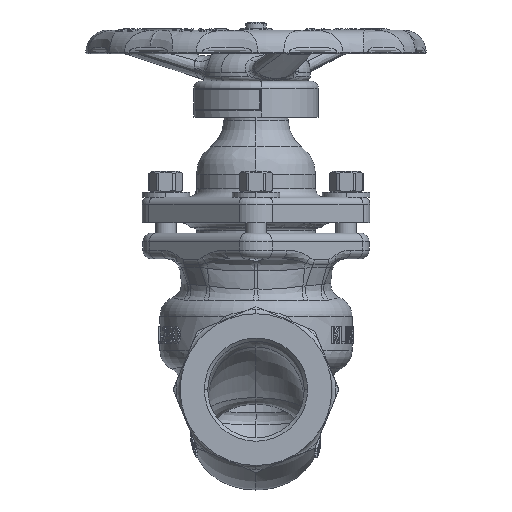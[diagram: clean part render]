
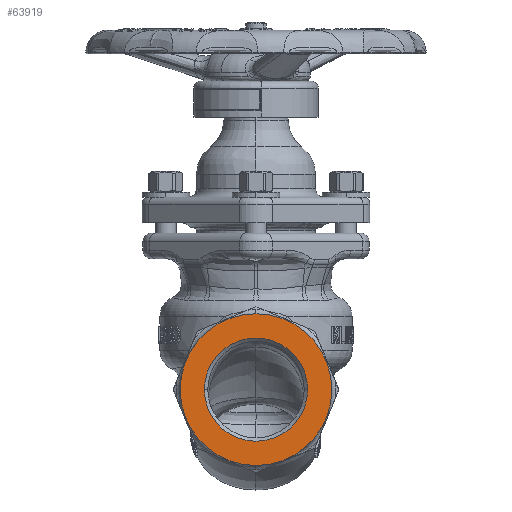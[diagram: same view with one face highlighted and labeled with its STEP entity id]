
A CAD part, left-side view. The second image highlights one B-rep face of the part: STEP entity #63919.
In plain terms, the highlighted planar face has unit normal (-1, 0, 0).
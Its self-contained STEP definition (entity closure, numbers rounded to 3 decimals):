
#13453=CARTESIAN_POINT('',(-110.,0.,0.));
#13454=DIRECTION('',(1.,0.,0.));
#13455=DIRECTION('',(0.,-1.,0.));
#13456=AXIS2_PLACEMENT_3D('',#13453,#13454,#13455);
#13458=CARTESIAN_POINT('',(-110.,0.,0.));
#13459=DIRECTION('',(1.,0.,0.));
#13460=DIRECTION('',(0.,1.,0.));
#13461=AXIS2_PLACEMENT_3D('',#13458,#13459,#13460);
#13463=CARTESIAN_POINT('',(-110.,0.,0.));
#13464=DIRECTION('',(-1.,0.,0.));
#13465=DIRECTION('',(0.,0.,-1.));
#13466=AXIS2_PLACEMENT_3D('',#13463,#13464,#13465);
#13577=CARTESIAN_POINT('',(-110.,0.,0.));
#13578=DIRECTION('',(-1.,0.,0.));
#13579=DIRECTION('',(0.,0.,1.));
#13580=AXIS2_PLACEMENT_3D('',#13577,#13578,#13579);
#39523=CARTESIAN_POINT('',(-110.,-30.328,0.));
#39524=CARTESIAN_POINT('',(-110.,30.328,0.));
#39525=VERTEX_POINT('',#39523);
#39526=VERTEX_POINT('',#39524);
#39585=CARTESIAN_POINT('',(-110.,0.,-44.579));
#39586=CARTESIAN_POINT('',(-110.,0.,44.579));
#39587=VERTEX_POINT('',#39585);
#39588=VERTEX_POINT('',#39586);
#63903=CARTESIAN_POINT('',(-110.,0.,0.));
#63904=DIRECTION('',(-1.,0.,0.));
#63905=DIRECTION('',(0.,0.,1.));
#63906=AXIS2_PLACEMENT_3D('',#63903,#63904,#63905);
#63907=PLANE('',#63906);
#63909=ORIENTED_EDGE('',*,*,#63908,.F.);
#63911=ORIENTED_EDGE('',*,*,#63910,.F.);
#63912=EDGE_LOOP('',(#63909,#63911));
#63913=FACE_OUTER_BOUND('',#63912,.F.);
#63915=ORIENTED_EDGE('',*,*,#63914,.F.);
#63916=ORIENTED_EDGE('',*,*,#63893,.F.);
#63917=EDGE_LOOP('',(#63915,#63916));
#63918=FACE_BOUND('',#63917,.F.);
#63919=ADVANCED_FACE('',(#63913,#63918),#63907,.T.);
#13457=CIRCLE('',#13456,30.328);
#13462=CIRCLE('',#13461,30.328);
#13467=CIRCLE('',#13466,44.579);
#13581=CIRCLE('',#13580,44.579);
#63893=EDGE_CURVE('',#39526,#39525,#13462,.T.);
#63908=EDGE_CURVE('',#39587,#39588,#13467,.T.);
#63910=EDGE_CURVE('',#39588,#39587,#13581,.T.);
#63914=EDGE_CURVE('',#39525,#39526,#13457,.T.);
